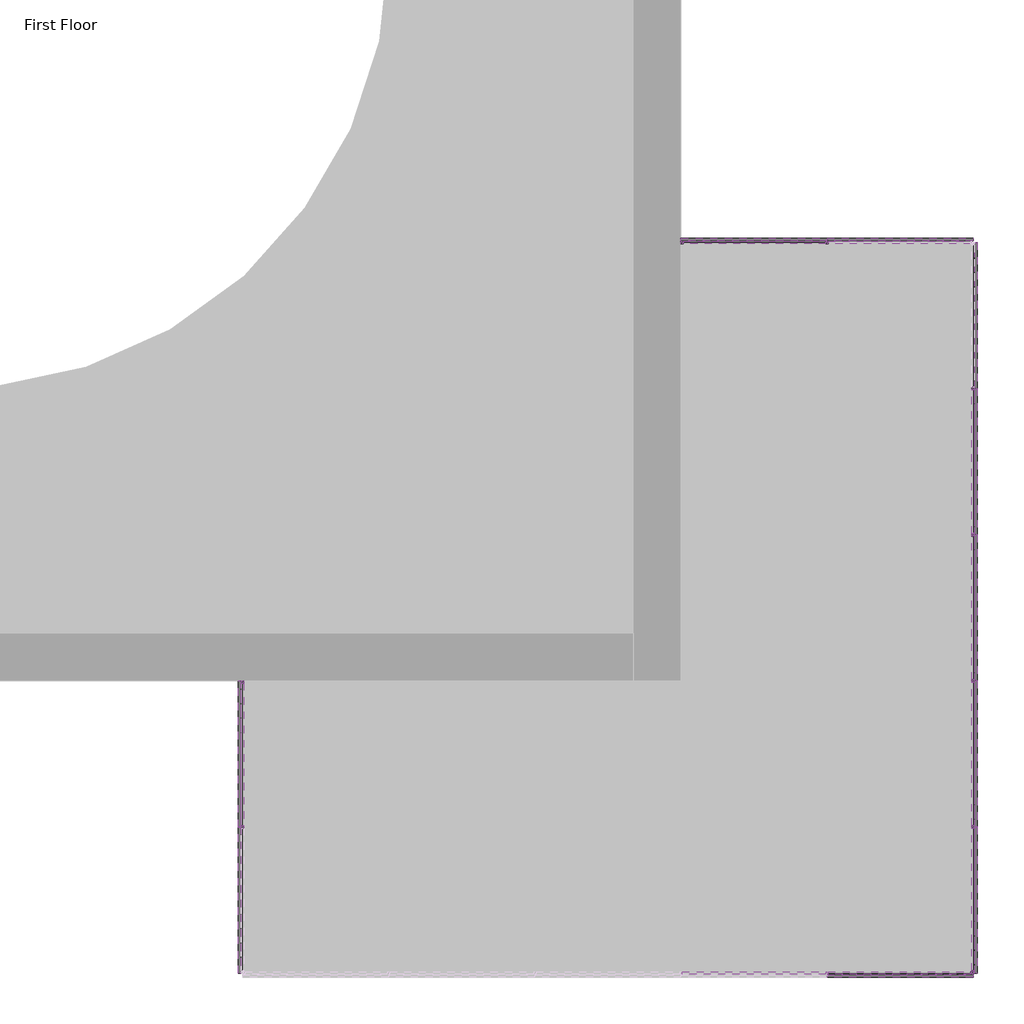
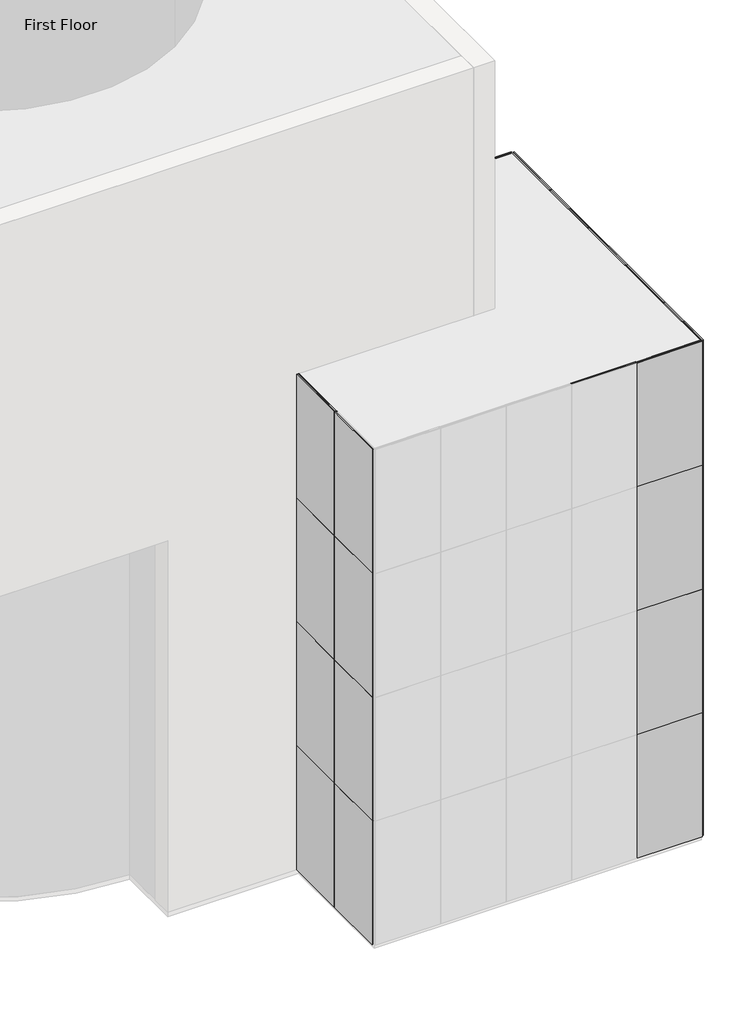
# One storey, part 2 of 4: 89 members, 40 plates.
"""IFC4 building model written with IfcOpenShell, lengths in millimetres."""

from ifc_helpers import new_model, si_unit, origin, place, context, project, spatial, transform, mapped, element, save
from components import member_cbdb9076, member_7e523723, member_74941792, member_5e617a80, member_9fd3d903, member_6604d1e0, system_panel_glazed_9c75bc08

model = new_model("IFC4")

# Units and contexts
model_context = context("Model", 3, world=origin())
ifc_project = project(units=[si_unit("LENGTHUNIT", "METRE", prefix="MILLI")], contexts=[model_context])

# Site, building, storey
site = spatial("IfcSite", under=ifc_project)
building = spatial("IfcBuilding", under=site)
storey = spatial("IfcBuildingStorey", under=building, Name="First Floor", Elevation=0.0)

# Members
placement = place(None, origin())
member_shape = member_cbdb9076(model_context)
element("IfcMember", 1, ObjectType="Rectangular Mullion : 1\" Square", at=placement, inside=storey, context=model_context, shape_type="MappedRepresentation", body=[
    mapped(member_shape, transform((840.36523, -7060.178386, 0.0), x_axis=(0.0, -1.0, 0.0), y_axis=(-1.0, 0.0, 0.0), z_axis=(0.0, 0.0, -1.0))),
])
element("IfcMember", 2, ObjectType="Rectangular Mullion : 1\" Square", at=placement, inside=storey, context=model_context, shape_type="MappedRepresentation", body=[
    mapped(member_shape, transform((8460.36523, -7060.178386, 0.0), x_axis=(0.0, 1.0, 0.0), y_axis=(1.0, 0.0, 0.0), z_axis=(0.0, 0.0, -1.0))),
])
element("IfcMember", 3, ObjectType="Rectangular Mullion : 1\" Square", at=placement, inside=storey, context=model_context, shape_type="MappedRepresentation", body=[
    mapped(member_shape, transform((8460.36523, -5536.178386, 0.0), x_axis=(0.0, 1.0, 0.0), y_axis=(1.0, 0.0, 0.0), z_axis=(0.0, 0.0, -1.0))),
])
element("IfcMember", 4, ObjectType="Rectangular Mullion : 1\" Square", at=placement, inside=storey, context=model_context, shape_type="MappedRepresentation", body=[
    mapped(member_shape, transform((8460.36523, -4012.178386, 0.0), x_axis=(0.0, 1.0, 0.0), y_axis=(1.0, 0.0, 0.0), z_axis=(0.0, 0.0, -1.0))),
])
element("IfcMember", 5, ObjectType="Rectangular Mullion : 1\" Square", at=placement, inside=storey, context=model_context, shape_type="MappedRepresentation", body=[
    mapped(member_shape, transform((8460.36523, -2488.178386, 0.0), x_axis=(0.0, 1.0, 0.0), y_axis=(1.0, 0.0, 0.0), z_axis=(0.0, 0.0, -1.0))),
])
element("IfcMember", 6, ObjectType="Rectangular Mullion : 1\" Square", at=placement, inside=storey, context=model_context, shape_type="MappedRepresentation", body=[
    mapped(member_shape, transform((6936.36523, -964.178386, 0.0), x_axis=(-1.0, 0.0, 0.0), y_axis=(0.0, 1.0, 0.0), z_axis=(0.0, 0.0, -1.0))),
])
element("IfcMember", 7, ObjectType="Rectangular Mullion : 1\" Square", at=placement, inside=storey, context=model_context, shape_type="MappedRepresentation", body=[
    mapped(member_shape, transform((6936.36523, -8584.178386, 3048.0), x_axis=(1.0, 0.0, 0.0), y_axis=(0.0, -1.0, 0.0), z_axis=(0.0, 0.0, -1.0))),
])
element("IfcMember", 8, ObjectType="Rectangular Mullion : 1\" Square", at=placement, inside=storey, context=model_context, shape_type="MappedRepresentation", body=[
    mapped(member_shape, transform((6936.36523, -8584.178386, 6096.0), x_axis=(1.0, 0.0, 0.0), y_axis=(0.0, -1.0, 0.0), z_axis=(0.0, 0.0, -1.0))),
])
element("IfcMember", 9, ObjectType="Rectangular Mullion : 1\" Square", at=placement, inside=storey, context=model_context, shape_type="MappedRepresentation", body=[
    mapped(member_shape, transform((840.36523, -7060.178386, 3048.0), x_axis=(0.0, -1.0, 0.0), y_axis=(-1.0, 0.0, 0.0), z_axis=(0.0, 0.0, -1.0))),
])
element("IfcMember", 10, ObjectType="Rectangular Mullion : 1\" Square", at=placement, inside=storey, context=model_context, shape_type="MappedRepresentation", body=[
    mapped(member_shape, transform((840.36523, -7060.178386, 6096.0), x_axis=(0.0, -1.0, 0.0), y_axis=(-1.0, 0.0, 0.0), z_axis=(0.0, 0.0, -1.0))),
])
element("IfcMember", 11, ObjectType="Rectangular Mullion : 1\" Square", at=placement, inside=storey, context=model_context, shape_type="MappedRepresentation", body=[
    mapped(member_shape, transform((8460.36523, -7060.178386, 3048.0), x_axis=(0.0, 1.0, 0.0), y_axis=(1.0, 0.0, 0.0), z_axis=(0.0, 0.0, -1.0))),
])
element("IfcMember", 12, ObjectType="Rectangular Mullion : 1\" Square", at=placement, inside=storey, context=model_context, shape_type="MappedRepresentation", body=[
    mapped(member_shape, transform((8460.36523, -7060.178386, 6096.0), x_axis=(0.0, 1.0, 0.0), y_axis=(1.0, 0.0, 0.0), z_axis=(0.0, 0.0, -1.0))),
])
element("IfcMember", 13, ObjectType="Rectangular Mullion : 1\" Square", at=placement, inside=storey, context=model_context, shape_type="MappedRepresentation", body=[
    mapped(member_shape, transform((8460.36523, -5536.178386, 3048.0), x_axis=(0.0, 1.0, 0.0), y_axis=(1.0, 0.0, 0.0), z_axis=(0.0, 0.0, -1.0))),
])
element("IfcMember", 14, ObjectType="Rectangular Mullion : 1\" Square", at=placement, inside=storey, context=model_context, shape_type="MappedRepresentation", body=[
    mapped(member_shape, transform((8460.36523, -5536.178386, 6096.0), x_axis=(0.0, 1.0, 0.0), y_axis=(1.0, 0.0, 0.0), z_axis=(0.0, 0.0, -1.0))),
])
element("IfcMember", 15, ObjectType="Rectangular Mullion : 1\" Square", at=placement, inside=storey, context=model_context, shape_type="MappedRepresentation", body=[
    mapped(member_shape, transform((8460.36523, -4012.178386, 3048.0), x_axis=(0.0, 1.0, 0.0), y_axis=(1.0, 0.0, 0.0), z_axis=(0.0, 0.0, -1.0))),
])
element("IfcMember", 16, ObjectType="Rectangular Mullion : 1\" Square", at=placement, inside=storey, context=model_context, shape_type="MappedRepresentation", body=[
    mapped(member_shape, transform((8460.36523, -4012.178386, 6096.0), x_axis=(0.0, 1.0, 0.0), y_axis=(1.0, 0.0, 0.0), z_axis=(0.0, 0.0, -1.0))),
])
element("IfcMember", 17, ObjectType="Rectangular Mullion : 1\" Square", at=placement, inside=storey, context=model_context, shape_type="MappedRepresentation", body=[
    mapped(member_shape, transform((8460.36523, -2488.178386, 3048.0), x_axis=(0.0, 1.0, 0.0), y_axis=(1.0, 0.0, 0.0), z_axis=(0.0, 0.0, -1.0))),
])
element("IfcMember", 18, ObjectType="Rectangular Mullion : 1\" Square", at=placement, inside=storey, context=model_context, shape_type="MappedRepresentation", body=[
    mapped(member_shape, transform((8460.36523, -2488.178386, 6096.0), x_axis=(0.0, 1.0, 0.0), y_axis=(1.0, 0.0, 0.0), z_axis=(0.0, 0.0, -1.0))),
])
element("IfcMember", 19, ObjectType="Rectangular Mullion : 1\" Square", at=placement, inside=storey, context=model_context, shape_type="MappedRepresentation", body=[
    mapped(member_shape, transform((6936.36523, -964.178386, 3048.0), x_axis=(-1.0, 0.0, 0.0), y_axis=(0.0, 1.0, 0.0), z_axis=(0.0, 0.0, -1.0))),
])
element("IfcMember", 20, ObjectType="Rectangular Mullion : 1\" Square", at=placement, inside=storey, context=model_context, shape_type="MappedRepresentation", body=[
    mapped(member_shape, transform((6936.36523, -964.178386, 6096.0), x_axis=(-1.0, 0.0, 0.0), y_axis=(0.0, 1.0, 0.0), z_axis=(0.0, 0.0, -1.0))),
])
element("IfcMember", 21, ObjectType="Rectangular Mullion : 1\" Square", at=placement, inside=storey, context=model_context, shape_type="MappedRepresentation", body=[
    mapped(member_shape, transform((6936.36523, -8584.178386, 9144.0), x_axis=(1.0, 0.0, 0.0), y_axis=(0.0, -1.0, 0.0), z_axis=(0.0, 0.0, -1.0))),
])
element("IfcMember", 22, ObjectType="Rectangular Mullion : 1\" Square", at=placement, inside=storey, context=model_context, shape_type="MappedRepresentation", body=[
    mapped(member_shape, transform((840.36523, -7060.178386, 9144.0), x_axis=(0.0, -1.0, 0.0), y_axis=(-1.0, 0.0, 0.0), z_axis=(0.0, 0.0, -1.0))),
])
element("IfcMember", 23, ObjectType="Rectangular Mullion : 1\" Square", at=placement, inside=storey, context=model_context, shape_type="MappedRepresentation", body=[
    mapped(member_shape, transform((8460.36523, -7060.178386, 9144.0), x_axis=(0.0, 1.0, 0.0), y_axis=(1.0, 0.0, 0.0), z_axis=(0.0, 0.0, -1.0))),
])
element("IfcMember", 24, ObjectType="Rectangular Mullion : 1\" Square", at=placement, inside=storey, context=model_context, shape_type="MappedRepresentation", body=[
    mapped(member_shape, transform((8460.36523, -5536.178386, 9144.0), x_axis=(0.0, 1.0, 0.0), y_axis=(1.0, 0.0, 0.0), z_axis=(0.0, 0.0, -1.0))),
])
element("IfcMember", 25, ObjectType="Rectangular Mullion : 1\" Square", at=placement, inside=storey, context=model_context, shape_type="MappedRepresentation", body=[
    mapped(member_shape, transform((8460.36523, -4012.178386, 9144.0), x_axis=(0.0, 1.0, 0.0), y_axis=(1.0, 0.0, 0.0), z_axis=(0.0, 0.0, -1.0))),
])
element("IfcMember", 26, ObjectType="Rectangular Mullion : 1\" Square", at=placement, inside=storey, context=model_context, shape_type="MappedRepresentation", body=[
    mapped(member_shape, transform((8460.36523, -2488.178386, 9144.0), x_axis=(0.0, 1.0, 0.0), y_axis=(1.0, 0.0, 0.0), z_axis=(0.0, 0.0, -1.0))),
])
element("IfcMember", 27, ObjectType="Rectangular Mullion : 1\" Square", at=placement, inside=storey, context=model_context, shape_type="MappedRepresentation", body=[
    mapped(member_shape, transform((6936.36523, -964.178386, 9144.0), x_axis=(-1.0, 0.0, 0.0), y_axis=(0.0, 1.0, 0.0), z_axis=(0.0, 0.0, -1.0))),
])
member_2_shape = member_7e523723(model_context)
element("IfcMember", 28, ObjectType="Rectangular Mullion : 1\" Square", at=placement, inside=storey, context=model_context, shape_type="MappedRepresentation", body=[
    mapped(member_2_shape, transform((8460.36523, -8584.178386, 0.0), x_axis=(1.0, 0.0, 0.0), y_axis=(0.0, -1.0, 0.0), z_axis=(0.0, 0.0, -1.0))),
])
element("IfcMember", 29, ObjectType="Rectangular Mullion : 1\" Square", at=placement, inside=storey, context=model_context, shape_type="MappedRepresentation", body=[
    mapped(member_2_shape, transform((5412.36523, -964.178386, 0.0), x_axis=(-1.0, 0.0, 0.0), y_axis=(0.0, 1.0, 0.0), z_axis=(0.0, 0.0, -1.0))),
])
element("IfcMember", 30, ObjectType="Rectangular Mullion : 1\" Square", at=placement, inside=storey, context=model_context, shape_type="MappedRepresentation", body=[
    mapped(member_2_shape, transform((840.36523, -5536.178386, 12192.0), x_axis=(0.0, 1.0, 0.0), y_axis=(-1.0, 0.0, 0.0), z_axis=(0.0, 0.0, 1.0))),
])
element("IfcMember", 31, ObjectType="Rectangular Mullion : 1\" Square", at=placement, inside=storey, context=model_context, shape_type="MappedRepresentation", body=[
    mapped(member_2_shape, transform((8460.36523, -8584.178386, 12192.0), x_axis=(0.0, -1.0, 0.0), y_axis=(1.0, 0.0, 0.0), z_axis=(0.0, 0.0, 1.0))),
])
element("IfcMember", 32, ObjectType="Rectangular Mullion : 1\" Square", at=placement, inside=storey, context=model_context, shape_type="MappedRepresentation", body=[
    mapped(member_2_shape, transform((840.36523, -5536.178386, 3048.0), x_axis=(0.0, 1.0, 0.0), y_axis=(-1.0, 0.0, 0.0), z_axis=(0.0, 0.0, 1.0))),
])
element("IfcMember", 33, ObjectType="Rectangular Mullion : 1\" Square", at=placement, inside=storey, context=model_context, shape_type="MappedRepresentation", body=[
    mapped(member_2_shape, transform((8460.36523, -8584.178386, 3048.0), x_axis=(0.0, -1.0, 0.0), y_axis=(1.0, 0.0, 0.0), z_axis=(0.0, 0.0, 1.0))),
])
element("IfcMember", 34, ObjectType="Rectangular Mullion : 1\" Square", at=placement, inside=storey, context=model_context, shape_type="MappedRepresentation", body=[
    mapped(member_2_shape, transform((840.36523, -5536.178386, 6096.0), x_axis=(0.0, 1.0, 0.0), y_axis=(-1.0, 0.0, 0.0), z_axis=(0.0, 0.0, 1.0))),
])
element("IfcMember", 35, ObjectType="Rectangular Mullion : 1\" Square", at=placement, inside=storey, context=model_context, shape_type="MappedRepresentation", body=[
    mapped(member_2_shape, transform((840.36523, -5536.178386, 9144.0), x_axis=(0.0, 1.0, 0.0), y_axis=(-1.0, 0.0, 0.0), z_axis=(0.0, 0.0, 1.0))),
])
element("IfcMember", 36, ObjectType="Rectangular Mullion : 1\" Square", at=placement, inside=storey, context=model_context, shape_type="MappedRepresentation", body=[
    mapped(member_2_shape, transform((8460.36523, -8584.178386, 6096.0), x_axis=(0.0, -1.0, 0.0), y_axis=(1.0, 0.0, 0.0), z_axis=(0.0, 0.0, 1.0))),
])
element("IfcMember", 37, ObjectType="Rectangular Mullion : 1\" Square", at=placement, inside=storey, context=model_context, shape_type="MappedRepresentation", body=[
    mapped(member_2_shape, transform((8460.36523, -8584.178386, 9144.0), x_axis=(0.0, -1.0, 0.0), y_axis=(1.0, 0.0, 0.0), z_axis=(0.0, 0.0, 1.0))),
])
element("IfcMember", 38, ObjectType="Rectangular Mullion : 1\" Square", at=placement, inside=storey, context=model_context, shape_type="MappedRepresentation", body=[
    mapped(member_2_shape, transform((8460.36523, -8584.178386, 3048.0), x_axis=(1.0, 0.0, 0.0), y_axis=(0.0, -1.0, 0.0), z_axis=(0.0, 0.0, -1.0))),
])
element("IfcMember", 39, ObjectType="Rectangular Mullion : 1\" Square", at=placement, inside=storey, context=model_context, shape_type="MappedRepresentation", body=[
    mapped(member_2_shape, transform((8460.36523, -8584.178386, 6096.0), x_axis=(1.0, 0.0, 0.0), y_axis=(0.0, -1.0, 0.0), z_axis=(0.0, 0.0, -1.0))),
])
element("IfcMember", 40, ObjectType="Rectangular Mullion : 1\" Square", at=placement, inside=storey, context=model_context, shape_type="MappedRepresentation", body=[
    mapped(member_2_shape, transform((5412.36523, -964.178386, 3048.0), x_axis=(-1.0, 0.0, 0.0), y_axis=(0.0, 1.0, 0.0), z_axis=(0.0, 0.0, -1.0))),
])
element("IfcMember", 41, ObjectType="Rectangular Mullion : 1\" Square", at=placement, inside=storey, context=model_context, shape_type="MappedRepresentation", body=[
    mapped(member_2_shape, transform((5412.36523, -964.178386, 6096.0), x_axis=(-1.0, 0.0, 0.0), y_axis=(0.0, 1.0, 0.0), z_axis=(0.0, 0.0, -1.0))),
])
element("IfcMember", 42, ObjectType="Rectangular Mullion : 1\" Square", at=placement, inside=storey, context=model_context, shape_type="MappedRepresentation", body=[
    mapped(member_2_shape, transform((8460.36523, -8584.178386, 9144.0), x_axis=(1.0, 0.0, 0.0), y_axis=(0.0, -1.0, 0.0), z_axis=(0.0, 0.0, -1.0))),
])
element("IfcMember", 43, ObjectType="Rectangular Mullion : 1\" Square", at=placement, inside=storey, context=model_context, shape_type="MappedRepresentation", body=[
    mapped(member_2_shape, transform((5412.36523, -964.178386, 9144.0), x_axis=(-1.0, 0.0, 0.0), y_axis=(0.0, 1.0, 0.0), z_axis=(0.0, 0.0, -1.0))),
])
member_3_shape = member_74941792(model_context)
element("IfcMember", 44, ObjectType="Rectangular Mullion : 1\" Square", at=placement, inside=storey, context=model_context, shape_type="MappedRepresentation", body=[
    mapped(member_3_shape, transform((8434.96523, -8584.178386, 12192.0), x_axis=(0.0, 0.0, 1.0), y_axis=(0.0, -1.0, 0.0), z_axis=(1.0, 0.0, 0.0))),
])
element("IfcMember", 45, ObjectType="Rectangular Mullion : 1\" Square", at=placement, inside=storey, context=model_context, shape_type="MappedRepresentation", body=[
    mapped(member_3_shape, transform((840.36523, -7047.478386, 12192.0), x_axis=(0.0, 0.0, 1.0), y_axis=(-1.0, 0.0, 0.0), z_axis=(0.0, -1.0, 0.0))),
])
element("IfcMember", 46, ObjectType="Rectangular Mullion : 1\" Square", at=placement, inside=storey, context=model_context, shape_type="MappedRepresentation", body=[
    mapped(member_3_shape, transform((8460.36523, -989.578386, 12192.0), x_axis=(0.0, 0.0, 1.0), y_axis=(1.0, 0.0, 0.0), z_axis=(0.0, 1.0, 0.0))),
])
element("IfcMember", 47, ObjectType="Rectangular Mullion : 1\" Square", at=placement, inside=storey, context=model_context, shape_type="MappedRepresentation", body=[
    mapped(member_3_shape, transform((8460.36523, -7072.878386, 12192.0), x_axis=(0.0, 0.0, 1.0), y_axis=(1.0, 0.0, 0.0), z_axis=(0.0, 1.0, 0.0))),
])
element("IfcMember", 48, ObjectType="Rectangular Mullion : 1\" Square", at=placement, inside=storey, context=model_context, shape_type="MappedRepresentation", body=[
    mapped(member_3_shape, transform((5437.76523, -964.178386, 12192.0), x_axis=(0.0, 0.0, 1.0), y_axis=(0.0, 1.0, 0.0), z_axis=(-1.0, 0.0, 0.0))),
])
element("IfcMember", 49, ObjectType="Rectangular Mullion : 1\" Square", at=placement, inside=storey, context=model_context, shape_type="MappedRepresentation", body=[
    mapped(member_3_shape, transform((6949.06523, -964.178386, 12192.0), x_axis=(0.0, 0.0, 1.0), y_axis=(0.0, 1.0, 0.0), z_axis=(-1.0, 0.0, 0.0))),
])
element("IfcMember", 50, ObjectType="Rectangular Mullion : 1\" Square", at=placement, inside=storey, context=model_context, shape_type="MappedRepresentation", body=[
    mapped(member_3_shape, transform((6949.06523, -8584.178386, 0.0), x_axis=(0.0, 0.0, -1.0), y_axis=(0.0, -1.0, 0.0), z_axis=(-1.0, 0.0, 0.0))),
])
element("IfcMember", 51, ObjectType="Rectangular Mullion : 1\" Square", at=placement, inside=storey, context=model_context, shape_type="MappedRepresentation", body=[
    mapped(member_3_shape, transform((840.36523, -5561.578386, 0.0), x_axis=(0.0, 0.0, -1.0), y_axis=(-1.0, 0.0, 0.0), z_axis=(0.0, 1.0, 0.0))),
])
element("IfcMember", 52, ObjectType="Rectangular Mullion : 1\" Square", at=placement, inside=storey, context=model_context, shape_type="MappedRepresentation", body=[
    mapped(member_3_shape, transform((840.36523, -7072.878386, 0.0), x_axis=(0.0, 0.0, -1.0), y_axis=(-1.0, 0.0, 0.0), z_axis=(0.0, 1.0, 0.0))),
])
element("IfcMember", 53, ObjectType="Rectangular Mullion : 1\" Square", at=placement, inside=storey, context=model_context, shape_type="MappedRepresentation", body=[
    mapped(member_3_shape, transform((8460.36523, -8558.778386, 0.0), x_axis=(0.0, 0.0, -1.0), y_axis=(1.0, 0.0, 0.0), z_axis=(0.0, -1.0, 0.0))),
])
element("IfcMember", 54, ObjectType="Rectangular Mullion : 1\" Square", at=placement, inside=storey, context=model_context, shape_type="MappedRepresentation", body=[
    mapped(member_3_shape, transform((8460.36523, -2475.478386, 0.0), x_axis=(0.0, 0.0, -1.0), y_axis=(1.0, 0.0, 0.0), z_axis=(0.0, -1.0, 0.0))),
])
element("IfcMember", 55, ObjectType="Rectangular Mullion : 1\" Square", at=placement, inside=storey, context=model_context, shape_type="MappedRepresentation", body=[
    mapped(member_3_shape, transform((6923.66523, -964.178386, 0.0), x_axis=(0.0, 0.0, -1.0), y_axis=(0.0, 1.0, 0.0), z_axis=(1.0, 0.0, 0.0))),
])
member_4_shape = member_5e617a80(model_context)
element("IfcMember", 56, ObjectType="Rectangular Mullion : 1\" Square", at=placement, inside=storey, context=model_context, shape_type="MappedRepresentation", body=[
    mapped(member_4_shape, transform((8434.96523, -8584.178386, 3048.0), x_axis=(0.0, 0.0, 1.0), y_axis=(0.0, -1.0, 0.0), z_axis=(1.0, 0.0, 0.0))),
])
element("IfcMember", 57, ObjectType="Rectangular Mullion : 1\" Square", at=placement, inside=storey, context=model_context, shape_type="MappedRepresentation", body=[
    mapped(member_4_shape, transform((8434.96523, -8584.178386, 6096.0), x_axis=(0.0, 0.0, 1.0), y_axis=(0.0, -1.0, 0.0), z_axis=(1.0, 0.0, 0.0))),
])
element("IfcMember", 58, ObjectType="Rectangular Mullion : 1\" Square", at=placement, inside=storey, context=model_context, shape_type="MappedRepresentation", body=[
    mapped(member_4_shape, transform((8434.96523, -8584.178386, 9144.0), x_axis=(0.0, 0.0, 1.0), y_axis=(0.0, -1.0, 0.0), z_axis=(1.0, 0.0, 0.0))),
])
element("IfcMember", 59, ObjectType="Rectangular Mullion : 1\" Square", at=placement, inside=storey, context=model_context, shape_type="MappedRepresentation", body=[
    mapped(member_4_shape, transform((840.36523, -7047.478386, 3048.0), x_axis=(0.0, 0.0, 1.0), y_axis=(-1.0, 0.0, 0.0), z_axis=(0.0, -1.0, 0.0))),
])
element("IfcMember", 60, ObjectType="Rectangular Mullion : 1\" Square", at=placement, inside=storey, context=model_context, shape_type="MappedRepresentation", body=[
    mapped(member_4_shape, transform((840.36523, -7047.478386, 6096.0), x_axis=(0.0, 0.0, 1.0), y_axis=(-1.0, 0.0, 0.0), z_axis=(0.0, -1.0, 0.0))),
])
element("IfcMember", 61, ObjectType="Rectangular Mullion : 1\" Square", at=placement, inside=storey, context=model_context, shape_type="MappedRepresentation", body=[
    mapped(member_4_shape, transform((840.36523, -7047.478386, 9144.0), x_axis=(0.0, 0.0, 1.0), y_axis=(-1.0, 0.0, 0.0), z_axis=(0.0, -1.0, 0.0))),
])
element("IfcMember", 62, ObjectType="Rectangular Mullion : 1\" Square", at=placement, inside=storey, context=model_context, shape_type="MappedRepresentation", body=[
    mapped(member_4_shape, transform((8460.36523, -7072.878386, 3048.0), x_axis=(0.0, 0.0, 1.0), y_axis=(1.0, 0.0, 0.0), z_axis=(0.0, 1.0, 0.0))),
])
element("IfcMember", 63, ObjectType="Rectangular Mullion : 1\" Square", at=placement, inside=storey, context=model_context, shape_type="MappedRepresentation", body=[
    mapped(member_4_shape, transform((8460.36523, -7072.878386, 6096.0), x_axis=(0.0, 0.0, 1.0), y_axis=(1.0, 0.0, 0.0), z_axis=(0.0, 1.0, 0.0))),
])
element("IfcMember", 64, ObjectType="Rectangular Mullion : 1\" Square", at=placement, inside=storey, context=model_context, shape_type="MappedRepresentation", body=[
    mapped(member_4_shape, transform((8460.36523, -7072.878386, 9144.0), x_axis=(0.0, 0.0, 1.0), y_axis=(1.0, 0.0, 0.0), z_axis=(0.0, 1.0, 0.0))),
])
element("IfcMember", 65, ObjectType="Rectangular Mullion : 1\" Square", at=placement, inside=storey, context=model_context, shape_type="MappedRepresentation", body=[
    mapped(member_4_shape, transform((6949.06523, -964.178386, 3048.0), x_axis=(0.0, 0.0, 1.0), y_axis=(0.0, 1.0, 0.0), z_axis=(-1.0, 0.0, 0.0))),
])
element("IfcMember", 66, ObjectType="Rectangular Mullion : 1\" Square", at=placement, inside=storey, context=model_context, shape_type="MappedRepresentation", body=[
    mapped(member_4_shape, transform((5437.76523, -964.178386, 3048.0), x_axis=(0.0, 0.0, 1.0), y_axis=(0.0, 1.0, 0.0), z_axis=(-1.0, 0.0, 0.0))),
])
element("IfcMember", 67, ObjectType="Rectangular Mullion : 1\" Square", at=placement, inside=storey, context=model_context, shape_type="MappedRepresentation", body=[
    mapped(member_4_shape, transform((6949.06523, -964.178386, 6096.0), x_axis=(0.0, 0.0, 1.0), y_axis=(0.0, 1.0, 0.0), z_axis=(-1.0, 0.0, 0.0))),
])
element("IfcMember", 68, ObjectType="Rectangular Mullion : 1\" Square", at=placement, inside=storey, context=model_context, shape_type="MappedRepresentation", body=[
    mapped(member_4_shape, transform((5437.76523, -964.178386, 6096.0), x_axis=(0.0, 0.0, 1.0), y_axis=(0.0, 1.0, 0.0), z_axis=(-1.0, 0.0, 0.0))),
])
element("IfcMember", 69, ObjectType="Rectangular Mullion : 1\" Square", at=placement, inside=storey, context=model_context, shape_type="MappedRepresentation", body=[
    mapped(member_4_shape, transform((6949.06523, -964.178386, 9144.0), x_axis=(0.0, 0.0, 1.0), y_axis=(0.0, 1.0, 0.0), z_axis=(-1.0, 0.0, 0.0))),
])
element("IfcMember", 70, ObjectType="Rectangular Mullion : 1\" Square", at=placement, inside=storey, context=model_context, shape_type="MappedRepresentation", body=[
    mapped(member_4_shape, transform((5437.76523, -964.178386, 9144.0), x_axis=(0.0, 0.0, 1.0), y_axis=(0.0, 1.0, 0.0), z_axis=(-1.0, 0.0, 0.0))),
])
member_5_shape = member_9fd3d903(model_context)
element("IfcMember", 71, ObjectType="Rectangular Mullion : 1\" Square", at=placement, inside=storey, context=model_context, shape_type="MappedRepresentation", body=[
    mapped(member_5_shape, transform((6923.66523, -8584.178386, 3048.0), x_axis=(0.0, 0.0, 1.0), y_axis=(0.0, -1.0, 0.0), z_axis=(1.0, 0.0, 0.0))),
])
element("IfcMember", 72, ObjectType="Rectangular Mullion : 1\" Square", at=placement, inside=storey, context=model_context, shape_type="MappedRepresentation", body=[
    mapped(member_5_shape, transform((6923.66523, -8584.178386, 6096.0), x_axis=(0.0, 0.0, 1.0), y_axis=(0.0, -1.0, 0.0), z_axis=(1.0, 0.0, 0.0))),
])
element("IfcMember", 73, ObjectType="Rectangular Mullion : 1\" Square", at=placement, inside=storey, context=model_context, shape_type="MappedRepresentation", body=[
    mapped(member_5_shape, transform((6923.66523, -8584.178386, 9144.0), x_axis=(0.0, 0.0, 1.0), y_axis=(0.0, -1.0, 0.0), z_axis=(1.0, 0.0, 0.0))),
])
element("IfcMember", 74, ObjectType="Rectangular Mullion : 1\" Square", at=placement, inside=storey, context=model_context, shape_type="MappedRepresentation", body=[
    mapped(member_5_shape, transform((8460.36523, -5548.878386, 3048.0), x_axis=(0.0, 0.0, 1.0), y_axis=(1.0, 0.0, 0.0), z_axis=(0.0, 1.0, 0.0))),
])
element("IfcMember", 75, ObjectType="Rectangular Mullion : 1\" Square", at=placement, inside=storey, context=model_context, shape_type="MappedRepresentation", body=[
    mapped(member_5_shape, transform((8460.36523, -4024.878386, 3048.0), x_axis=(0.0, 0.0, 1.0), y_axis=(1.0, 0.0, 0.0), z_axis=(0.0, 1.0, 0.0))),
])
element("IfcMember", 76, ObjectType="Rectangular Mullion : 1\" Square", at=placement, inside=storey, context=model_context, shape_type="MappedRepresentation", body=[
    mapped(member_5_shape, transform((8460.36523, -2500.878386, 3048.0), x_axis=(0.0, 0.0, 1.0), y_axis=(1.0, 0.0, 0.0), z_axis=(0.0, 1.0, 0.0))),
])
element("IfcMember", 77, ObjectType="Rectangular Mullion : 1\" Square", at=placement, inside=storey, context=model_context, shape_type="MappedRepresentation", body=[
    mapped(member_5_shape, transform((8460.36523, -5548.878386, 6096.0), x_axis=(0.0, 0.0, 1.0), y_axis=(1.0, 0.0, 0.0), z_axis=(0.0, 1.0, 0.0))),
])
element("IfcMember", 78, ObjectType="Rectangular Mullion : 1\" Square", at=placement, inside=storey, context=model_context, shape_type="MappedRepresentation", body=[
    mapped(member_5_shape, transform((8460.36523, -4024.878386, 6096.0), x_axis=(0.0, 0.0, 1.0), y_axis=(1.0, 0.0, 0.0), z_axis=(0.0, 1.0, 0.0))),
])
element("IfcMember", 79, ObjectType="Rectangular Mullion : 1\" Square", at=placement, inside=storey, context=model_context, shape_type="MappedRepresentation", body=[
    mapped(member_5_shape, transform((8460.36523, -2500.878386, 6096.0), x_axis=(0.0, 0.0, 1.0), y_axis=(1.0, 0.0, 0.0), z_axis=(0.0, 1.0, 0.0))),
])
element("IfcMember", 80, ObjectType="Rectangular Mullion : 1\" Square", at=placement, inside=storey, context=model_context, shape_type="MappedRepresentation", body=[
    mapped(member_5_shape, transform((8460.36523, -5548.878386, 9144.0), x_axis=(0.0, 0.0, 1.0), y_axis=(1.0, 0.0, 0.0), z_axis=(0.0, 1.0, 0.0))),
])
element("IfcMember", 81, ObjectType="Rectangular Mullion : 1\" Square", at=placement, inside=storey, context=model_context, shape_type="MappedRepresentation", body=[
    mapped(member_5_shape, transform((8460.36523, -4024.878386, 9144.0), x_axis=(0.0, 0.0, 1.0), y_axis=(1.0, 0.0, 0.0), z_axis=(0.0, 1.0, 0.0))),
])
element("IfcMember", 82, ObjectType="Rectangular Mullion : 1\" Square", at=placement, inside=storey, context=model_context, shape_type="MappedRepresentation", body=[
    mapped(member_5_shape, transform((8460.36523, -2500.878386, 9144.0), x_axis=(0.0, 0.0, 1.0), y_axis=(1.0, 0.0, 0.0), z_axis=(0.0, 1.0, 0.0))),
])
member_6_shape = member_6604d1e0(model_context)
element("IfcMember", 83, ObjectType="Rectangular Mullion : 1\" Square", at=placement, inside=storey, context=model_context, shape_type="MappedRepresentation", body=[
    mapped(member_6_shape, transform((8460.36523, -7047.478386, 0.0), x_axis=(0.0, 0.0, -1.0), y_axis=(1.0, 0.0, 0.0), z_axis=(0.0, -1.0, 0.0))),
])
element("IfcMember", 84, ObjectType="Rectangular Mullion : 1\" Square", at=placement, inside=storey, context=model_context, shape_type="MappedRepresentation", body=[
    mapped(member_6_shape, transform((8460.36523, -5523.478386, 0.0), x_axis=(0.0, 0.0, -1.0), y_axis=(1.0, 0.0, 0.0), z_axis=(0.0, -1.0, 0.0))),
])
element("IfcMember", 85, ObjectType="Rectangular Mullion : 1\" Square", at=placement, inside=storey, context=model_context, shape_type="MappedRepresentation", body=[
    mapped(member_6_shape, transform((8460.36523, -3999.478386, 0.0), x_axis=(0.0, 0.0, -1.0), y_axis=(1.0, 0.0, 0.0), z_axis=(0.0, -1.0, 0.0))),
])
element("IfcMember", 86, ObjectType="Rectangular Mullion : 1\" Square", at=placement, inside=storey, context=model_context, shape_type="MappedRepresentation", body=[
    mapped(member_6_shape, transform((6923.66523, -8584.178386, 12192.0), x_axis=(0.0, 0.0, 1.0), y_axis=(0.0, -1.0, 0.0), z_axis=(1.0, 0.0, 0.0))),
])
element("IfcMember", 87, ObjectType="Rectangular Mullion : 1\" Square", at=placement, inside=storey, context=model_context, shape_type="MappedRepresentation", body=[
    mapped(member_6_shape, transform((8460.36523, -5548.878386, 12192.0), x_axis=(0.0, 0.0, 1.0), y_axis=(1.0, 0.0, 0.0), z_axis=(0.0, 1.0, 0.0))),
])
element("IfcMember", 88, ObjectType="Rectangular Mullion : 1\" Square", at=placement, inside=storey, context=model_context, shape_type="MappedRepresentation", body=[
    mapped(member_6_shape, transform((8460.36523, -4024.878386, 12192.0), x_axis=(0.0, 0.0, 1.0), y_axis=(1.0, 0.0, 0.0), z_axis=(0.0, 1.0, 0.0))),
])
element("IfcMember", 89, ObjectType="Rectangular Mullion : 1\" Square", at=placement, inside=storey, context=model_context, shape_type="MappedRepresentation", body=[
    mapped(member_6_shape, transform((8460.36523, -2500.878386, 12192.0), x_axis=(0.0, 0.0, 1.0), y_axis=(1.0, 0.0, 0.0), z_axis=(0.0, 1.0, 0.0))),
])

# Plates
system_panel_glazed_shape = system_panel_glazed_9c75bc08(model_context)
element("IfcPlate", 90, ObjectType="System Panel : Glazed", at=placement, inside=storey, context=model_context, shape_type="MappedRepresentation", body=[
    mapped(system_panel_glazed_shape, transform((840.36523, -6298.178386, 0.0), x_axis=(0.0, -1.0, 0.0), y_axis=(1.0, 0.0, 0.0), z_axis=(0.0, 0.0, 1.0))),
])
element("IfcPlate", 91, ObjectType="System Panel : Glazed", at=placement, inside=storey, context=model_context, shape_type="MappedRepresentation", body=[
    mapped(system_panel_glazed_shape, transform((840.36523, -7822.178386, 0.0), x_axis=(0.0, -1.0, 0.0), y_axis=(1.0, 0.0, 0.0), z_axis=(0.0, 0.0, 1.0))),
])
element("IfcPlate", 92, ObjectType="System Panel : Glazed", at=placement, inside=storey, context=model_context, shape_type="MappedRepresentation", body=[
    mapped(system_panel_glazed_shape, transform((840.36523, -6298.178386, 3048.0), x_axis=(0.0, -1.0, 0.0), y_axis=(1.0, 0.0, 0.0), z_axis=(0.0, 0.0, 1.0))),
])
element("IfcPlate", 93, ObjectType="System Panel : Glazed", at=placement, inside=storey, context=model_context, shape_type="MappedRepresentation", body=[
    mapped(system_panel_glazed_shape, transform((840.36523, -7822.178386, 3048.0), x_axis=(0.0, -1.0, 0.0), y_axis=(1.0, 0.0, 0.0), z_axis=(0.0, 0.0, 1.0))),
])
element("IfcPlate", 94, ObjectType="System Panel : Glazed", at=placement, inside=storey, context=model_context, shape_type="MappedRepresentation", body=[
    mapped(system_panel_glazed_shape, transform((840.36523, -6298.178386, 6096.0), x_axis=(0.0, -1.0, 0.0), y_axis=(1.0, 0.0, 0.0), z_axis=(0.0, 0.0, 1.0))),
])
element("IfcPlate", 95, ObjectType="System Panel : Glazed", at=placement, inside=storey, context=model_context, shape_type="MappedRepresentation", body=[
    mapped(system_panel_glazed_shape, transform((840.36523, -7822.178386, 6096.0), x_axis=(0.0, -1.0, 0.0), y_axis=(1.0, 0.0, 0.0), z_axis=(0.0, 0.0, 1.0))),
])
element("IfcPlate", 96, ObjectType="System Panel : Glazed", at=placement, inside=storey, context=model_context, shape_type="MappedRepresentation", body=[
    mapped(system_panel_glazed_shape, transform((840.36523, -6298.178386, 9144.0), x_axis=(0.0, -1.0, 0.0), y_axis=(1.0, 0.0, 0.0), z_axis=(0.0, 0.0, 1.0))),
])
element("IfcPlate", 97, ObjectType="System Panel : Glazed", at=placement, inside=storey, context=model_context, shape_type="MappedRepresentation", body=[
    mapped(system_panel_glazed_shape, transform((840.36523, -7822.178386, 9144.0), x_axis=(0.0, -1.0, 0.0), y_axis=(1.0, 0.0, 0.0), z_axis=(0.0, 0.0, 1.0))),
])
element("IfcPlate", 98, ObjectType="System Panel : Glazed", at=placement, inside=storey, context=model_context, shape_type="MappedRepresentation", body=[
    mapped(system_panel_glazed_shape, transform((7698.36523, -8584.178386, 0.0), x_axis=(1.0, 0.0, 0.0), y_axis=(0.0, 1.0, 0.0), z_axis=(0.0, 0.0, 1.0))),
])
element("IfcPlate", 99, ObjectType="System Panel : Glazed", at=placement, inside=storey, context=model_context, shape_type="MappedRepresentation", body=[
    mapped(system_panel_glazed_shape, transform((7698.36523, -8584.178386, 3048.0), x_axis=(1.0, 0.0, 0.0), y_axis=(0.0, 1.0, 0.0), z_axis=(0.0, 0.0, 1.0))),
])
element("IfcPlate", 100, ObjectType="System Panel : Glazed", at=placement, inside=storey, context=model_context, shape_type="MappedRepresentation", body=[
    mapped(system_panel_glazed_shape, transform((7698.36523, -8584.178386, 6096.0), x_axis=(1.0, 0.0, 0.0), y_axis=(0.0, 1.0, 0.0), z_axis=(0.0, 0.0, 1.0))),
])
element("IfcPlate", 101, ObjectType="System Panel : Glazed", at=placement, inside=storey, context=model_context, shape_type="MappedRepresentation", body=[
    mapped(system_panel_glazed_shape, transform((7698.36523, -8584.178386, 9144.0), x_axis=(1.0, 0.0, 0.0), y_axis=(0.0, 1.0, 0.0), z_axis=(0.0, 0.0, 1.0))),
])
element("IfcPlate", 102, ObjectType="System Panel : Glazed", at=placement, inside=storey, context=model_context, shape_type="MappedRepresentation", body=[
    mapped(system_panel_glazed_shape, transform((8460.36523, -7822.178386, 0.0), x_axis=(0.0, 1.0, 0.0), y_axis=(-1.0, 0.0, 0.0), z_axis=(0.0, 0.0, 1.0))),
])
element("IfcPlate", 103, ObjectType="System Panel : Glazed", at=placement, inside=storey, context=model_context, shape_type="MappedRepresentation", body=[
    mapped(system_panel_glazed_shape, transform((8460.36523, -6298.178386, 0.0), x_axis=(0.0, 1.0, 0.0), y_axis=(-1.0, 0.0, 0.0), z_axis=(0.0, 0.0, 1.0))),
])
element("IfcPlate", 104, ObjectType="System Panel : Glazed", at=placement, inside=storey, context=model_context, shape_type="MappedRepresentation", body=[
    mapped(system_panel_glazed_shape, transform((8460.36523, -4774.178386, 0.0), x_axis=(0.0, 1.0, 0.0), y_axis=(-1.0, 0.0, 0.0), z_axis=(0.0, 0.0, 1.0))),
])
element("IfcPlate", 105, ObjectType="System Panel : Glazed", at=placement, inside=storey, context=model_context, shape_type="MappedRepresentation", body=[
    mapped(system_panel_glazed_shape, transform((8460.36523, -3250.178386, 0.0), x_axis=(0.0, 1.0, 0.0), y_axis=(-1.0, 0.0, 0.0), z_axis=(0.0, 0.0, 1.0))),
])
element("IfcPlate", 106, ObjectType="System Panel : Glazed", at=placement, inside=storey, context=model_context, shape_type="MappedRepresentation", body=[
    mapped(system_panel_glazed_shape, transform((8460.36523, -1726.178386, 0.0), x_axis=(0.0, 1.0, 0.0), y_axis=(-1.0, 0.0, 0.0), z_axis=(0.0, 0.0, 1.0))),
])
element("IfcPlate", 107, ObjectType="System Panel : Glazed", at=placement, inside=storey, context=model_context, shape_type="MappedRepresentation", body=[
    mapped(system_panel_glazed_shape, transform((8460.36523, -7822.178386, 3048.0), x_axis=(0.0, 1.0, 0.0), y_axis=(-1.0, 0.0, 0.0), z_axis=(0.0, 0.0, 1.0))),
])
element("IfcPlate", 108, ObjectType="System Panel : Glazed", at=placement, inside=storey, context=model_context, shape_type="MappedRepresentation", body=[
    mapped(system_panel_glazed_shape, transform((8460.36523, -6298.178386, 3048.0), x_axis=(0.0, 1.0, 0.0), y_axis=(-1.0, 0.0, 0.0), z_axis=(0.0, 0.0, 1.0))),
])
element("IfcPlate", 109, ObjectType="System Panel : Glazed", at=placement, inside=storey, context=model_context, shape_type="MappedRepresentation", body=[
    mapped(system_panel_glazed_shape, transform((8460.36523, -4774.178386, 3048.0), x_axis=(0.0, 1.0, 0.0), y_axis=(-1.0, 0.0, 0.0), z_axis=(0.0, 0.0, 1.0))),
])
element("IfcPlate", 110, ObjectType="System Panel : Glazed", at=placement, inside=storey, context=model_context, shape_type="MappedRepresentation", body=[
    mapped(system_panel_glazed_shape, transform((8460.36523, -3250.178386, 3048.0), x_axis=(0.0, 1.0, 0.0), y_axis=(-1.0, 0.0, 0.0), z_axis=(0.0, 0.0, 1.0))),
])
element("IfcPlate", 111, ObjectType="System Panel : Glazed", at=placement, inside=storey, context=model_context, shape_type="MappedRepresentation", body=[
    mapped(system_panel_glazed_shape, transform((8460.36523, -1726.178386, 3048.0), x_axis=(0.0, 1.0, 0.0), y_axis=(-1.0, 0.0, 0.0), z_axis=(0.0, 0.0, 1.0))),
])
element("IfcPlate", 112, ObjectType="System Panel : Glazed", at=placement, inside=storey, context=model_context, shape_type="MappedRepresentation", body=[
    mapped(system_panel_glazed_shape, transform((8460.36523, -7822.178386, 6096.0), x_axis=(0.0, 1.0, 0.0), y_axis=(-1.0, 0.0, 0.0), z_axis=(0.0, 0.0, 1.0))),
])
element("IfcPlate", 113, ObjectType="System Panel : Glazed", at=placement, inside=storey, context=model_context, shape_type="MappedRepresentation", body=[
    mapped(system_panel_glazed_shape, transform((8460.36523, -6298.178386, 6096.0), x_axis=(0.0, 1.0, 0.0), y_axis=(-1.0, 0.0, 0.0), z_axis=(0.0, 0.0, 1.0))),
])
element("IfcPlate", 114, ObjectType="System Panel : Glazed", at=placement, inside=storey, context=model_context, shape_type="MappedRepresentation", body=[
    mapped(system_panel_glazed_shape, transform((8460.36523, -4774.178386, 6096.0), x_axis=(0.0, 1.0, 0.0), y_axis=(-1.0, 0.0, 0.0), z_axis=(0.0, 0.0, 1.0))),
])
element("IfcPlate", 115, ObjectType="System Panel : Glazed", at=placement, inside=storey, context=model_context, shape_type="MappedRepresentation", body=[
    mapped(system_panel_glazed_shape, transform((8460.36523, -3250.178386, 6096.0), x_axis=(0.0, 1.0, 0.0), y_axis=(-1.0, 0.0, 0.0), z_axis=(0.0, 0.0, 1.0))),
])
element("IfcPlate", 116, ObjectType="System Panel : Glazed", at=placement, inside=storey, context=model_context, shape_type="MappedRepresentation", body=[
    mapped(system_panel_glazed_shape, transform((8460.36523, -1726.178386, 6096.0), x_axis=(0.0, 1.0, 0.0), y_axis=(-1.0, 0.0, 0.0), z_axis=(0.0, 0.0, 1.0))),
])
element("IfcPlate", 117, ObjectType="System Panel : Glazed", at=placement, inside=storey, context=model_context, shape_type="MappedRepresentation", body=[
    mapped(system_panel_glazed_shape, transform((8460.36523, -7822.178386, 9144.0), x_axis=(0.0, 1.0, 0.0), y_axis=(-1.0, 0.0, 0.0), z_axis=(0.0, 0.0, 1.0))),
])
element("IfcPlate", 118, ObjectType="System Panel : Glazed", at=placement, inside=storey, context=model_context, shape_type="MappedRepresentation", body=[
    mapped(system_panel_glazed_shape, transform((8460.36523, -6298.178386, 9144.0), x_axis=(0.0, 1.0, 0.0), y_axis=(-1.0, 0.0, 0.0), z_axis=(0.0, 0.0, 1.0))),
])
element("IfcPlate", 119, ObjectType="System Panel : Glazed", at=placement, inside=storey, context=model_context, shape_type="MappedRepresentation", body=[
    mapped(system_panel_glazed_shape, transform((8460.36523, -4774.178386, 9144.0), x_axis=(0.0, 1.0, 0.0), y_axis=(-1.0, 0.0, 0.0), z_axis=(0.0, 0.0, 1.0))),
])
element("IfcPlate", 120, ObjectType="System Panel : Glazed", at=placement, inside=storey, context=model_context, shape_type="MappedRepresentation", body=[
    mapped(system_panel_glazed_shape, transform((8460.36523, -3250.178386, 9144.0), x_axis=(0.0, 1.0, 0.0), y_axis=(-1.0, 0.0, 0.0), z_axis=(0.0, 0.0, 1.0))),
])
element("IfcPlate", 121, ObjectType="System Panel : Glazed", at=placement, inside=storey, context=model_context, shape_type="MappedRepresentation", body=[
    mapped(system_panel_glazed_shape, transform((8460.36523, -1726.178386, 9144.0), x_axis=(0.0, 1.0, 0.0), y_axis=(-1.0, 0.0, 0.0), z_axis=(0.0, 0.0, 1.0))),
])
element("IfcPlate", 122, ObjectType="System Panel : Glazed", at=placement, inside=storey, context=model_context, shape_type="MappedRepresentation", body=[
    mapped(system_panel_glazed_shape, transform((7698.36523, -964.178386, 0.0), x_axis=(-1.0, 0.0, 0.0), y_axis=(0.0, -1.0, 0.0), z_axis=(0.0, 0.0, 1.0))),
])
element("IfcPlate", 123, ObjectType="System Panel : Glazed", at=placement, inside=storey, context=model_context, shape_type="MappedRepresentation", body=[
    mapped(system_panel_glazed_shape, transform((6174.36523, -964.178386, 0.0), x_axis=(-1.0, 0.0, 0.0), y_axis=(0.0, -1.0, 0.0), z_axis=(0.0, 0.0, 1.0))),
])
element("IfcPlate", 124, ObjectType="System Panel : Glazed", at=placement, inside=storey, context=model_context, shape_type="MappedRepresentation", body=[
    mapped(system_panel_glazed_shape, transform((7698.36523, -964.178386, 3048.0), x_axis=(-1.0, 0.0, 0.0), y_axis=(0.0, -1.0, 0.0), z_axis=(0.0, 0.0, 1.0))),
])
element("IfcPlate", 125, ObjectType="System Panel : Glazed", at=placement, inside=storey, context=model_context, shape_type="MappedRepresentation", body=[
    mapped(system_panel_glazed_shape, transform((6174.36523, -964.178386, 3048.0), x_axis=(-1.0, 0.0, 0.0), y_axis=(0.0, -1.0, 0.0), z_axis=(0.0, 0.0, 1.0))),
])
element("IfcPlate", 126, ObjectType="System Panel : Glazed", at=placement, inside=storey, context=model_context, shape_type="MappedRepresentation", body=[
    mapped(system_panel_glazed_shape, transform((7698.36523, -964.178386, 6096.0), x_axis=(-1.0, 0.0, 0.0), y_axis=(0.0, -1.0, 0.0), z_axis=(0.0, 0.0, 1.0))),
])
element("IfcPlate", 127, ObjectType="System Panel : Glazed", at=placement, inside=storey, context=model_context, shape_type="MappedRepresentation", body=[
    mapped(system_panel_glazed_shape, transform((6174.36523, -964.178386, 6096.0), x_axis=(-1.0, 0.0, 0.0), y_axis=(0.0, -1.0, 0.0), z_axis=(0.0, 0.0, 1.0))),
])
element("IfcPlate", 128, ObjectType="System Panel : Glazed", at=placement, inside=storey, context=model_context, shape_type="MappedRepresentation", body=[
    mapped(system_panel_glazed_shape, transform((7698.36523, -964.178386, 9144.0), x_axis=(-1.0, 0.0, 0.0), y_axis=(0.0, -1.0, 0.0), z_axis=(0.0, 0.0, 1.0))),
])
element("IfcPlate", 129, ObjectType="System Panel : Glazed", at=placement, inside=storey, context=model_context, shape_type="MappedRepresentation", body=[
    mapped(system_panel_glazed_shape, transform((6174.36523, -964.178386, 9144.0), x_axis=(-1.0, 0.0, 0.0), y_axis=(0.0, -1.0, 0.0), z_axis=(0.0, 0.0, 1.0))),
])

save(model, "model.ifc")
